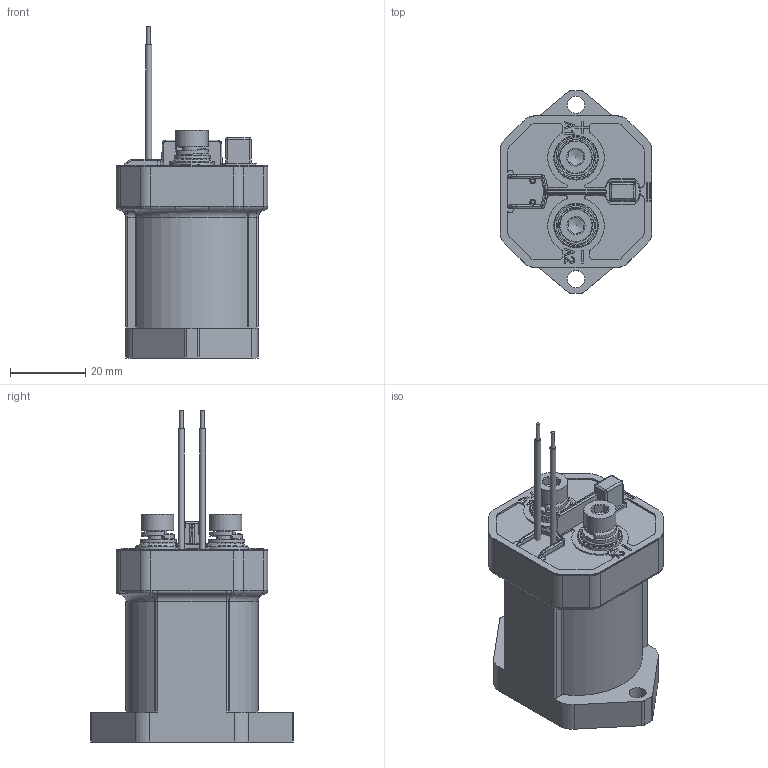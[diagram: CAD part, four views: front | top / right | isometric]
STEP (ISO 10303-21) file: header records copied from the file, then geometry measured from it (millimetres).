
FILE_DESCRIPTION(/* description */ (''),/* implementation_level */ '2;1');
FILE_NAME(/* name */ 'DK-100(2).step',/* time_stamp */ '2022-07-05T16:02:12+08:00',/* author */ (''),/* organization */ (''),/* preprocessor_version */ 'ST-DEVELOPER v15',/* originating_system */ 'SIEMENS PLM Software NX 8.5',/* authorisation */ '');
FILE_SCHEMA (('AUTOMOTIVE_DESIGN { 1 0 10303 214 3 1 1 1 }'));
Length unit declared in the file: millimetre
Products named in the file (18): 77551365000; 78670026000; 77321137030; 66320177010; _model2; _model3; _model1; DK100-03; DK100-02; DK100-01; luoshuan; 56800926000; 56800927000; 66330114000; 56200044000; 56200045000; 56702363000; 45202297000
Assembly tree (20 placements, depth 7):
  45202297000
    56702363000
      56200045000
        56200044000
          66330114000
            77321137030  x2
            78670026000
          56800927000
            56800926000
              77551365000
        66320177010  x2
    luoshuan  x2
      _model1
      _model3
      _model2
    DK100-01
    DK100-02
    DK100-03
Bounding box: 40.2 x 53.85 x 88.1 mm (x, y, z)
Volume: 17486.2 mm3; surface area: 25703.2 mm2
Topology: 17 solids, 18 shells, 1103 faces, 2786 edges, 1739 vertices
Faces by surface type: plane 466, cylinder 394, torus 108, bspline 63, cone 43, sphere 16, extrusion 13
Full cylindrical faces by diameter (mm): 1 x4, 1.5 x1, 1.6 x2, 2.5 x1, 4.2 x2, 4.5 x2, 4.57 x2, 4.8 x2, 5 x2, 5.2 x2, 8.5 x2, 9.6 x4, 9.7 x2, 10.6 x2, 11.5 x2, 32.9 x1
Entity records: 30861 total; most frequent: CARTESIAN_POINT 7774, DIRECTION 4668, ORIENTED_EDGE 4520, EDGE_CURVE 2260, AXIS2_PLACEMENT_3D 1740, VERTEX_POINT 1443, VECTOR 1188, LINE 1169
